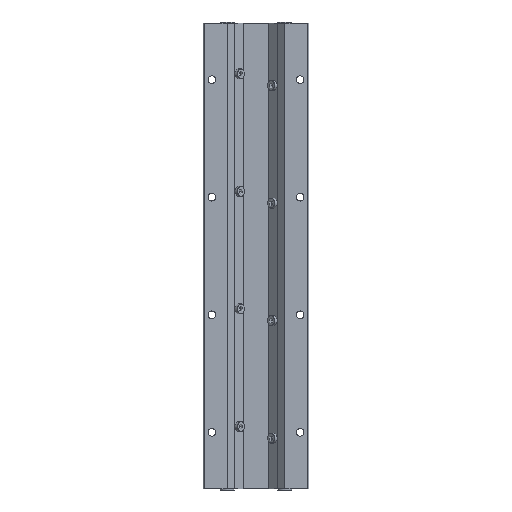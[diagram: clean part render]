
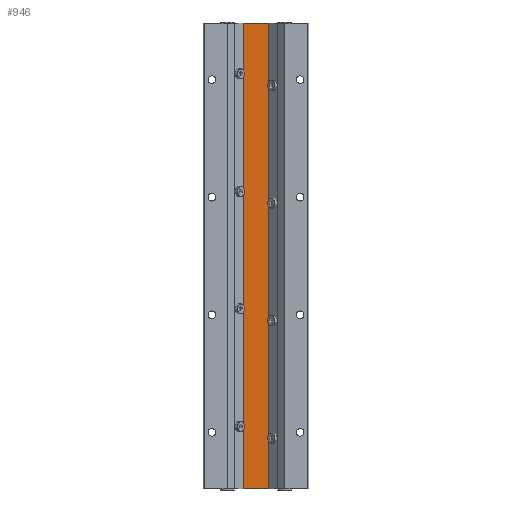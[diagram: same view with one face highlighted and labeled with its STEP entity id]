
A CAD part, front view. The second image highlights one B-rep face of the part: STEP entity #946.
In plain terms, the highlighted planar face has unit normal (0, -1, 0).
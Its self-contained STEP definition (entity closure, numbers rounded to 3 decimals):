
#596 = EDGE_CURVE ( 'NONE', #6484, #6334, #2619, .T. ) ;
#946 = ADVANCED_FACE ( 'NONE', ( #3394 ), #3393, .T. ) ;
#947 = EDGE_LOOP ( 'NONE', ( #948, #949, #950, #952 ) ) ;
#948 = ORIENTED_EDGE ( 'NONE', *, *, #596, .F. ) ;
#949 = ORIENTED_EDGE ( 'NONE', *, *, #6444, .F. ) ;
#950 = ORIENTED_EDGE ( 'NONE', *, *, #951, .T. ) ;
#951 = EDGE_CURVE ( 'NONE', #6488, #6338, #3315, .T. ) ;
#952 = ORIENTED_EDGE ( 'NONE', *, *, #6337, .T. ) ;
#2616 = DIRECTION ( 'NONE',  ( 1., 0., 0. ) ) ;
#2617 = VECTOR ( 'NONE', #2616, 1000. ) ;
#2618 = CARTESIAN_POINT ( 'NONE',  ( -11.015, 19., 0. ) ) ;
#2619 = LINE ( 'NONE', #2618, #2617 ) ;
#3312 = DIRECTION ( 'NONE',  ( 1., 0., 0. ) ) ;
#3313 = VECTOR ( 'NONE', #3312, 1000. ) ;
#3314 = CARTESIAN_POINT ( 'NONE',  ( -11.015, 19., -396. ) ) ;
#3315 = LINE ( 'NONE', #3314, #3313 ) ;
#3389 = DIRECTION ( 'NONE',  ( 0., 0., -1. ) ) ;
#3390 = DIRECTION ( 'NONE',  ( 0., -1., 0. ) ) ;
#3391 = CARTESIAN_POINT ( 'NONE',  ( -11.015, 19., -396. ) ) ;
#3392 = AXIS2_PLACEMENT_3D ( 'NONE', #3391, #3390, #3389 ) ;
#3393 = PLANE ( 'NONE',  #3392 ) ;
#3394 = FACE_OUTER_BOUND ( 'NONE', #947, .T. ) ;
#4574 = CARTESIAN_POINT ( 'NONE',  ( 11.015, 19., -396. ) ) ;
#4575 = DIRECTION ( 'NONE',  ( 0., 0., 1. ) ) ;
#4576 = VECTOR ( 'NONE', #4575, 1000. ) ;
#4577 = CARTESIAN_POINT ( 'NONE',  ( 11.015, 19., -396. ) ) ;
#4578 = LINE ( 'NONE', #4577, #4576 ) ;
#4580 = CARTESIAN_POINT ( 'NONE',  ( 11.015, 19., 0. ) ) ;
#4733 = CARTESIAN_POINT ( 'NONE',  ( -11.015, 19., -396. ) ) ;
#4738 = CARTESIAN_POINT ( 'NONE',  ( -11.015, 19., 0. ) ) ;
#4967 = DIRECTION ( 'NONE',  ( 0., 0., 1. ) ) ;
#4968 = VECTOR ( 'NONE', #4967, 1000. ) ;
#4969 = CARTESIAN_POINT ( 'NONE',  ( -11.015, 19., -396. ) ) ;
#4970 = LINE ( 'NONE', #4969, #4968 ) ;
#6334 = VERTEX_POINT ( 'NONE', #4580 ) ;
#6337 = EDGE_CURVE ( 'NONE', #6338, #6334, #4578, .T. ) ;
#6338 = VERTEX_POINT ( 'NONE', #4574 ) ;
#6444 = EDGE_CURVE ( 'NONE', #6488, #6484, #4970, .T. ) ;
#6484 = VERTEX_POINT ( 'NONE', #4738 ) ;
#6488 = VERTEX_POINT ( 'NONE', #4733 ) ;
